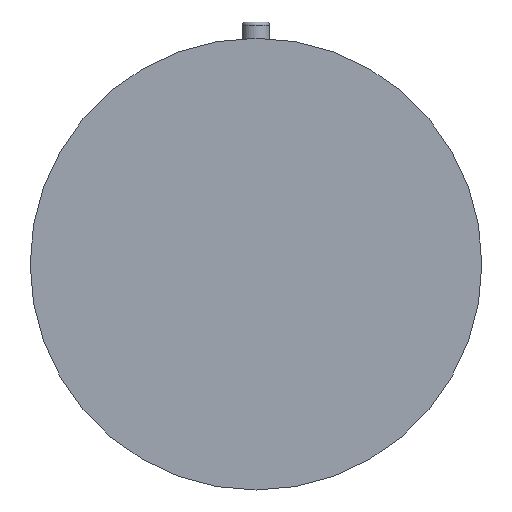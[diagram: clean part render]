
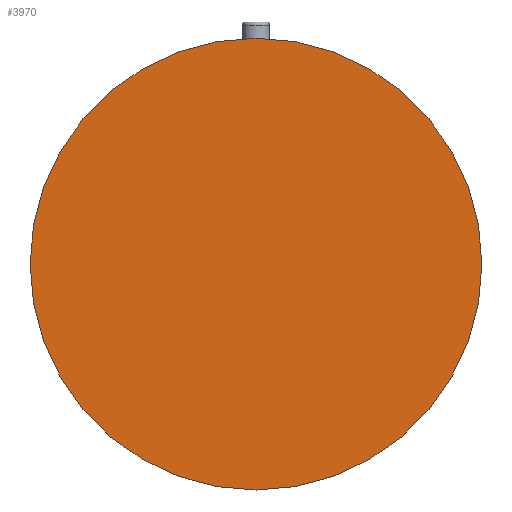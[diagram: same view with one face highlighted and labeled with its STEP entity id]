
A CAD part, front view. The second image highlights one B-rep face of the part: STEP entity #3970.
In plain terms, the highlighted planar face has unit normal (0, -1, 0).
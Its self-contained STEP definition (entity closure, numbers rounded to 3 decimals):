
#233=CARTESIAN_POINT('',(0.,50.1,-27.5));
#234=DIRECTION('',(0.,1.,0.));
#235=DIRECTION('',(0.,0.,1.));
#236=AXIS2_PLACEMENT_3D('',#233,#234,#235);
#247=CARTESIAN_POINT('',(0.,50.1,-27.5));
#248=DIRECTION('',(0.,-1.,0.));
#249=DIRECTION('',(0.,0.,1.));
#250=AXIS2_PLACEMENT_3D('',#247,#248,#249);
#3332=CARTESIAN_POINT('',(0.,50.1,47.5));
#3333=CARTESIAN_POINT('',(0.,50.1,-102.5));
#3334=VERTEX_POINT('',#3332);
#3335=VERTEX_POINT('',#3333);
#3961=CARTESIAN_POINT('',(0.,50.1,-27.5));
#3962=DIRECTION('',(0.,-1.,0.));
#3963=DIRECTION('',(-1.,0.,0.));
#3964=AXIS2_PLACEMENT_3D('',#3961,#3962,#3963);
#3965=PLANE('',#3964);
#3966=ORIENTED_EDGE('',*,*,#3955,.F.);
#3967=ORIENTED_EDGE('',*,*,#3941,.T.);
#3968=EDGE_LOOP('',(#3966,#3967));
#3969=FACE_OUTER_BOUND('',#3968,.F.);
#3970=ADVANCED_FACE('',(#3969),#3965,.T.);
#237=CIRCLE('',#236,75.);
#251=CIRCLE('',#250,75.);
#3941=EDGE_CURVE('',#3334,#3335,#237,.T.);
#3955=EDGE_CURVE('',#3334,#3335,#251,.T.);
